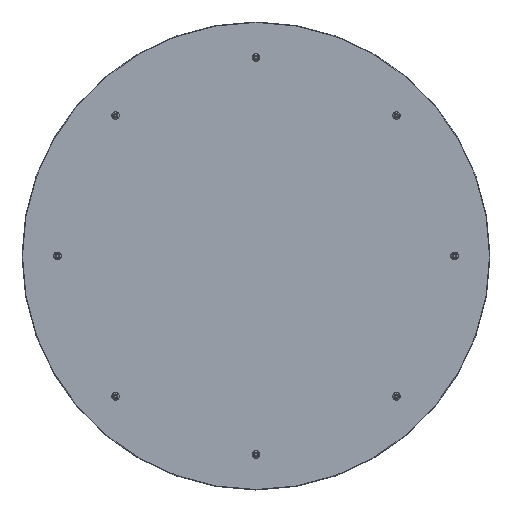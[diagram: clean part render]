
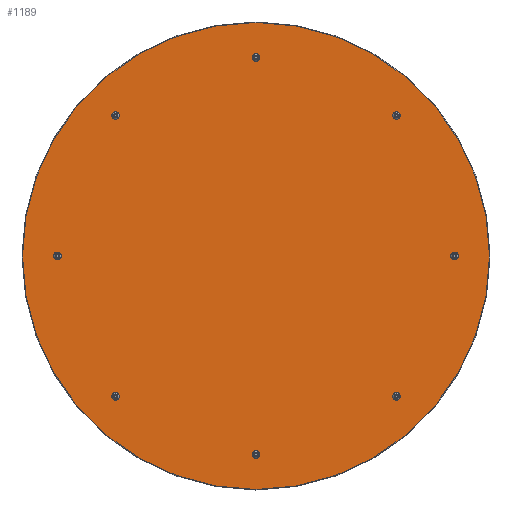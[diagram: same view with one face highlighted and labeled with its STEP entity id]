
A CAD part, top view. The second image highlights one B-rep face of the part: STEP entity #1189.
In plain terms, the highlighted planar face has unit normal (0, 0, 1).
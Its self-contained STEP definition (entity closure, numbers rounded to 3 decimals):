
#50 = AXIS2_PLACEMENT_3D ( 'NONE', #1069, #944, #1078 ) ;
#53 = AXIS2_PLACEMENT_3D ( 'NONE', #1630, #678, #372 ) ;
#71 = ORIENTED_EDGE ( 'NONE', *, *, #516, .T. ) ;
#75 = DIRECTION ( 'NONE',  ( 0., 0., -1. ) ) ;
#81 = CARTESIAN_POINT ( 'NONE',  ( -291.662, -299.99, 55. ) ) ;
#104 = FACE_BOUND ( 'NONE', #268, .T. ) ;
#120 = AXIS2_PLACEMENT_3D ( 'NONE', #1228, #1249, #127 ) ;
#125 = VERTEX_POINT ( 'NONE', #1102 ) ;
#127 = DIRECTION ( 'NONE',  ( 1., 0., 0. ) ) ;
#144 = ORIENTED_EDGE ( 'NONE', *, *, #1362, .T. ) ;
#151 = DIRECTION ( 'NONE',  ( 0., 0., -1. ) ) ;
#189 = EDGE_CURVE ( 'NONE', #774, #774, #560, .T. ) ;
#193 = VERTEX_POINT ( 'NONE', #906 ) ;
#206 = CARTESIAN_POINT ( 'NONE',  ( 0., 0., 55. ) ) ;
#218 = VERTEX_POINT ( 'NONE', #511 ) ;
#232 = AXIS2_PLACEMENT_3D ( 'NONE', #660, #75, #647 ) ;
#268 = EDGE_LOOP ( 'NONE', ( #1718 ) ) ;
#274 = PLANE ( 'NONE',  #120 ) ;
#327 = DIRECTION ( 'NONE',  ( 1., 0., 0. ) ) ;
#372 = DIRECTION ( 'NONE',  ( 1., 0., 0. ) ) ;
#377 = AXIS2_PLACEMENT_3D ( 'NONE', #1207, #1785, #1068 ) ;
#401 = FACE_BOUND ( 'NONE', #1108, .T. ) ;
#412 = CIRCLE ( 'NONE', #377, 8.328 ) ;
#413 = FACE_BOUND ( 'NONE', #1707, .T. ) ;
#414 = EDGE_LOOP ( 'NONE', ( #144 ) ) ;
#440 = EDGE_LOOP ( 'NONE', ( #689 ) ) ;
#463 = CARTESIAN_POINT ( 'NONE',  ( -424.25, 0., 55. ) ) ;
#475 = EDGE_CURVE ( 'NONE', #1581, #1581, #1284, .T. ) ;
#511 = CARTESIAN_POINT ( 'NONE',  ( -291.662, 299.99, 55. ) ) ;
#515 = EDGE_LOOP ( 'NONE', ( #900 ) ) ;
#516 = EDGE_CURVE ( 'NONE', #218, #218, #1145, .T. ) ;
#560 = CIRCLE ( 'NONE', #614, 8.328 ) ;
#613 = EDGE_LOOP ( 'NONE', ( #71 ) ) ;
#614 = AXIS2_PLACEMENT_3D ( 'NONE', #463, #880, #1263 ) ;
#622 = CIRCLE ( 'NONE', #1054, 8.328 ) ;
#646 = AXIS2_PLACEMENT_3D ( 'NONE', #1129, #151, #1534 ) ;
#647 = DIRECTION ( 'NONE',  ( 1., 0., 0. ) ) ;
#660 = CARTESIAN_POINT ( 'NONE',  ( 299.99, -299.99, 55. ) ) ;
#678 = DIRECTION ( 'NONE',  ( 0., 0., -1. ) ) ;
#689 = ORIENTED_EDGE ( 'NONE', *, *, #756, .T. ) ;
#756 = EDGE_CURVE ( 'NONE', #193, #193, #1375, .T. ) ;
#774 = VERTEX_POINT ( 'NONE', #1303 ) ;
#803 = EDGE_CURVE ( 'NONE', #1507, #1507, #412, .T. ) ;
#834 = FACE_BOUND ( 'NONE', #414, .T. ) ;
#850 = EDGE_CURVE ( 'NONE', #1366, #1366, #1639, .T. ) ;
#880 = DIRECTION ( 'NONE',  ( 0., 0., -1. ) ) ;
#897 = DIRECTION ( 'NONE',  ( 0., 0., -1. ) ) ;
#900 = ORIENTED_EDGE ( 'NONE', *, *, #1523, .T. ) ;
#906 = CARTESIAN_POINT ( 'NONE',  ( 432.578, 0., 55. ) ) ;
#914 = EDGE_CURVE ( 'NONE', #125, #125, #1493, .T. ) ;
#944 = DIRECTION ( 'NONE',  ( 0., 0., -1. ) ) ;
#948 = FACE_BOUND ( 'NONE', #440, .T. ) ;
#1033 = DIRECTION ( 'NONE',  ( 1., 0., 0. ) ) ;
#1049 = CARTESIAN_POINT ( 'NONE',  ( 308.318, 299.99, 55. ) ) ;
#1054 = AXIS2_PLACEMENT_3D ( 'NONE', #1133, #1280, #327 ) ;
#1068 = DIRECTION ( 'NONE',  ( 1., 0., 0. ) ) ;
#1069 = CARTESIAN_POINT ( 'NONE',  ( 299.99, 299.99, 55. ) ) ;
#1078 = DIRECTION ( 'NONE',  ( 1., 0., 0. ) ) ;
#1084 = FACE_BOUND ( 'NONE', #613, .T. ) ;
#1093 = AXIS2_PLACEMENT_3D ( 'NONE', #206, #1332, #1200 ) ;
#1102 = CARTESIAN_POINT ( 'NONE',  ( 308.318, -299.99, 55. ) ) ;
#1108 = EDGE_LOOP ( 'NONE', ( #1323 ) ) ;
#1129 = CARTESIAN_POINT ( 'NONE',  ( -299.99, 299.99, 55. ) ) ;
#1133 = CARTESIAN_POINT ( 'NONE',  ( -299.99, -299.99, 55. ) ) ;
#1145 = CIRCLE ( 'NONE', #646, 8.328 ) ;
#1189 = ADVANCED_FACE ( 'NONE', ( #1084, #1782, #834, #1360, #401, #948, #413, #1384, #104 ), #274, .T. ) ;
#1200 = DIRECTION ( 'NONE',  ( 1., 0., 0. ) ) ;
#1207 = CARTESIAN_POINT ( 'NONE',  ( 0., -424.25, 55. ) ) ;
#1228 = CARTESIAN_POINT ( 'NONE',  ( 0., 0., 55. ) ) ;
#1249 = DIRECTION ( 'NONE',  ( 0., 0., 1. ) ) ;
#1253 = VERTEX_POINT ( 'NONE', #1676 ) ;
#1263 = DIRECTION ( 'NONE',  ( 1., 0., 0. ) ) ;
#1280 = DIRECTION ( 'NONE',  ( 0., 0., -1. ) ) ;
#1284 = CIRCLE ( 'NONE', #50, 8.328 ) ;
#1291 = CIRCLE ( 'NONE', #1093, 499. ) ;
#1303 = CARTESIAN_POINT ( 'NONE',  ( -415.922, 0., 55. ) ) ;
#1323 = ORIENTED_EDGE ( 'NONE', *, *, #914, .T. ) ;
#1332 = DIRECTION ( 'NONE',  ( 0., 0., 1. ) ) ;
#1338 = VERTEX_POINT ( 'NONE', #81 ) ;
#1346 = AXIS2_PLACEMENT_3D ( 'NONE', #1586, #897, #1033 ) ;
#1360 = FACE_BOUND ( 'NONE', #1612, .T. ) ;
#1362 = EDGE_CURVE ( 'NONE', #1338, #1338, #622, .T. ) ;
#1366 = VERTEX_POINT ( 'NONE', #1777 ) ;
#1375 = CIRCLE ( 'NONE', #1346, 8.328 ) ;
#1384 = FACE_OUTER_BOUND ( 'NONE', #515, .T. ) ;
#1483 = CARTESIAN_POINT ( 'NONE',  ( 8.328, -424.25, 55. ) ) ;
#1493 = CIRCLE ( 'NONE', #232, 8.328 ) ;
#1507 = VERTEX_POINT ( 'NONE', #1483 ) ;
#1523 = EDGE_CURVE ( 'NONE', #1253, #1253, #1291, .T. ) ;
#1524 = EDGE_LOOP ( 'NONE', ( #1757 ) ) ;
#1534 = DIRECTION ( 'NONE',  ( 1., 0., 0. ) ) ;
#1581 = VERTEX_POINT ( 'NONE', #1049 ) ;
#1586 = CARTESIAN_POINT ( 'NONE',  ( 424.25, 0., 55. ) ) ;
#1608 = ORIENTED_EDGE ( 'NONE', *, *, #803, .T. ) ;
#1612 = EDGE_LOOP ( 'NONE', ( #1608 ) ) ;
#1630 = CARTESIAN_POINT ( 'NONE',  ( 0., 424.25, 55. ) ) ;
#1639 = CIRCLE ( 'NONE', #53, 8.328 ) ;
#1676 = CARTESIAN_POINT ( 'NONE',  ( 499., 0., 55. ) ) ;
#1687 = ORIENTED_EDGE ( 'NONE', *, *, #475, .T. ) ;
#1707 = EDGE_LOOP ( 'NONE', ( #1687 ) ) ;
#1718 = ORIENTED_EDGE ( 'NONE', *, *, #850, .T. ) ;
#1757 = ORIENTED_EDGE ( 'NONE', *, *, #189, .T. ) ;
#1777 = CARTESIAN_POINT ( 'NONE',  ( 8.328, 424.25, 55. ) ) ;
#1782 = FACE_BOUND ( 'NONE', #1524, .T. ) ;
#1785 = DIRECTION ( 'NONE',  ( 0., 0., -1. ) ) ;
